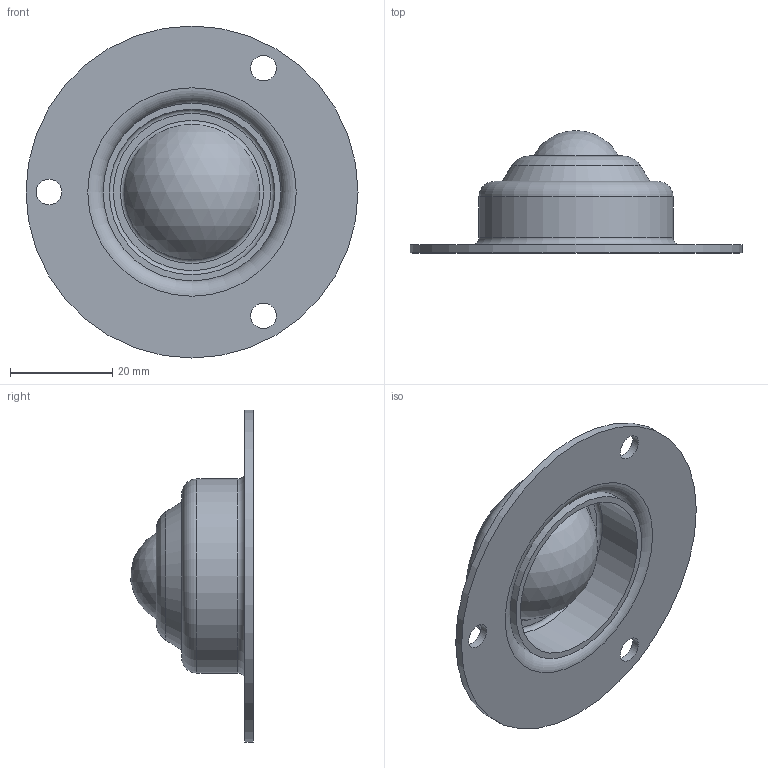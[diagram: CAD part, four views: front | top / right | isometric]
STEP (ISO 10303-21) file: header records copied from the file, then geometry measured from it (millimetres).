
FILE_DESCRIPTION(/* description */ (''),/* implementation_level */ '2;1');
FILE_NAME(/* name */ 'Z:\34-Tei\01-web 3Dデータ\28-IB(IB-S)\X2\578B\X0\\IB-19S.stp',/* time_stamp */ '2015-01-13T13:56:16+09:00',/* author */ ('yamaki'),/* organization */ (''),/* preprocessor_version */ 'ST-DEVELOPER v15.6',/* originating_system */ 'Autodesk Inventor 2015',/* authorisation */ '');
FILE_SCHEMA (('AUTOMOTIVE_DESIGN { 1 0 10303 214 3 1 1 }'));
Length unit declared in the file: millimetre
Products named in the file (4): 3619HT; 3619SR; 2011905; IB-19S型
Bounding box: 65 x 23.93 x 65 mm (x, y, z)
Volume: 13299.5 mm3; surface area: 15061.4 mm2
Topology: 3 solids, 3 shells, 34 faces, 63 edges, 40 vertices
Faces by surface type: torus 10, cylinder 9, plane 9, cone 3, sphere 3
Full cylindrical faces by diameter (mm): 5 x3, 18 x1, 32.4 x1, 34.8 x2, 38 x1, 65 x1
Entity records: 810 total; most frequent: DIRECTION 154, CARTESIAN_POINT 114, AXIS2_PLACEMENT_3D 77, ORIENTED_EDGE 72, EDGE_LOOP 71, FACE_BOUND 37, VERTEX_POINT 37, CIRCLE 36
